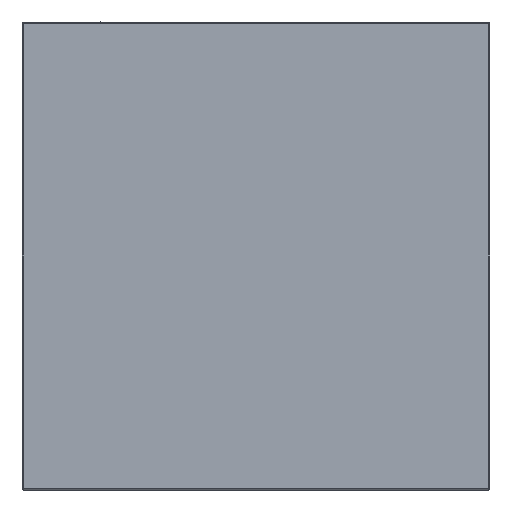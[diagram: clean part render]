
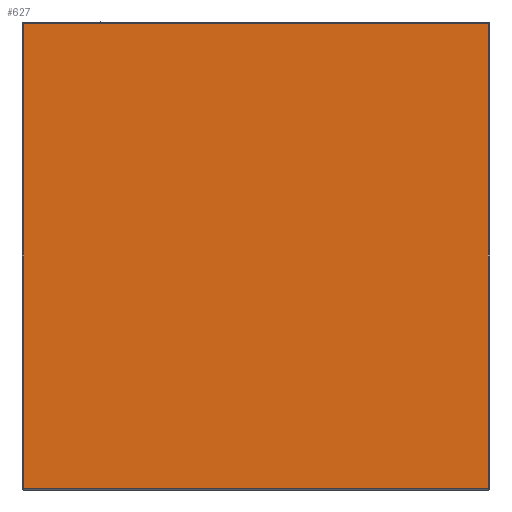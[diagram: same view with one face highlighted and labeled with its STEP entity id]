
A CAD part, left-side view. The second image highlights one B-rep face of the part: STEP entity #627.
In plain terms, the highlighted planar face has unit normal (-1, 0, 0).
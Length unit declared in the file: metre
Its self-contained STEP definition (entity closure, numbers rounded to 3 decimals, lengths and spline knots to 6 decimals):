
#26=PLANE('',#714);
#49=LINE('',#1071,#73);
#51=LINE('',#1087,#75);
#52=LINE('',#1089,#76);
#53=LINE('',#1091,#77);
#73=VECTOR('',#847,1.);
#75=VECTOR('',#867,1.);
#76=VECTOR('',#870,1.);
#77=VECTOR('',#871,1.);
#138=ORIENTED_EDGE('',*,*,#264,.F.);
#139=ORIENTED_EDGE('',*,*,#272,.T.);
#140=ORIENTED_EDGE('',*,*,#273,.F.);
#141=ORIENTED_EDGE('',*,*,#274,.F.);
#264=EDGE_CURVE('',#338,#339,#49,.T.);
#272=EDGE_CURVE('',#338,#343,#51,.T.);
#273=EDGE_CURVE('',#344,#343,#52,.T.);
#274=EDGE_CURVE('',#339,#344,#53,.T.);
#338=VERTEX_POINT('',#1070);
#339=VERTEX_POINT('',#1072);
#343=VERTEX_POINT('',#1083);
#344=VERTEX_POINT('',#1090);
#454=EDGE_LOOP('',(#138,#139,#140,#141));
#536=FACE_BOUND('',#454,.T.);
#627=ADVANCED_FACE('',(#536),#26,.T.);
#714=AXIS2_PLACEMENT_3D('',#1088,#868,#869);
#847=DIRECTION('',(0.,-1.,0.));
#867=DIRECTION('',(0.,0.,-1.));
#868=DIRECTION('',(-1.,0.,0.));
#869=DIRECTION('',(0.,-1.,0.));
#870=DIRECTION('',(0.,1.,0.));
#871=DIRECTION('',(0.,0.,-1.));
#1070=CARTESIAN_POINT('',(0.,0.0299,0.0299));
#1071=CARTESIAN_POINT('',(0.,0.0299,0.0299));
#1072=CARTESIAN_POINT('',(0.,0.0001,0.0299));
#1083=CARTESIAN_POINT('',(0.,0.0299,0.0001));
#1087=CARTESIAN_POINT('',(0.,0.0299,0.0299));
#1088=CARTESIAN_POINT('',(0.,0.03,0.));
#1089=CARTESIAN_POINT('',(0.,0.0001,0.0001));
#1090=CARTESIAN_POINT('',(0.,0.0001,0.0001));
#1091=CARTESIAN_POINT('',(0.,0.0001,0.0299));
